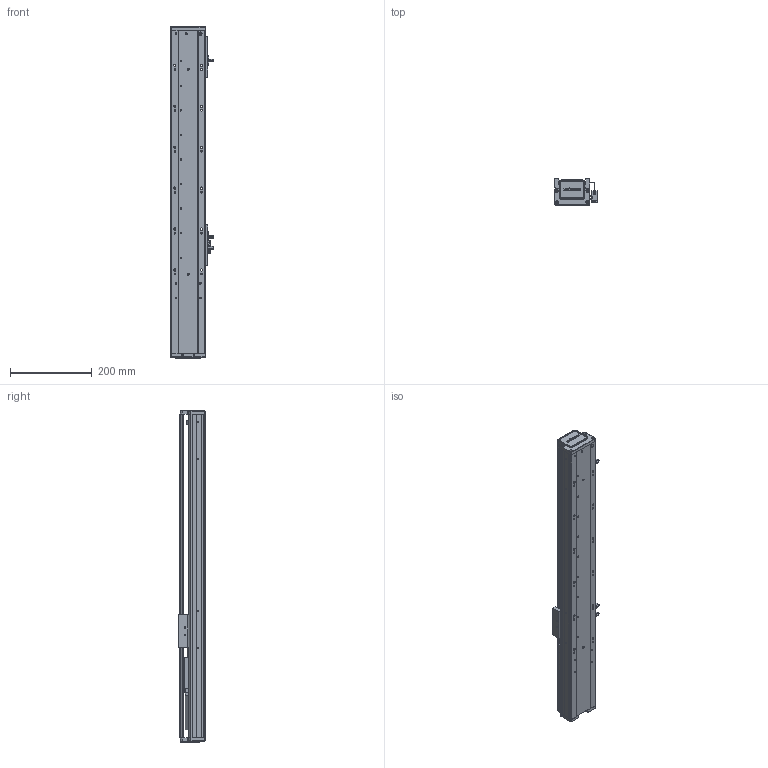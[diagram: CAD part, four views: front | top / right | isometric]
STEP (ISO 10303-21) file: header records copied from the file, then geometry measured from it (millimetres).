
FILE_DESCRIPTION (( 'STEP AP203' ), '1' );
FILE_NAME ('RY80-L1620-300-IK.SLDASM_450.step', '2021-02-22T05:28:54', ( '盈信电脑' ), ( '东莞市道滘镇水果街19号' ), 'SwSTEP 2.0', 'SolidWorks 2012', '' );
FILE_SCHEMA (( 'CONFIG_CONTROL_DESIGN' ));
Length unit declared in the file: millimetre
Products named in the file (14): RY80囀离萇儂啣; RY80囀离ヶ啣; 侂狟100W; 覜茼ん672; RY80俋离覜茼え; 滅袉蝶18-10; 672嫖萇羲壽假蚾釱; RY80-300倰第奻裔啣-IK_450; RY80萇儂傷盓傅釱; RY80綴裔啣; RY80臏賑輸; RY80-300倰第菁釱-IK_450; 滅袉蝶18-24; RY80-L1620-300-IK.SLDASM_450
Assembly tree (16 placements, depth 2):
  RY80-L1620-300-IK.SLDASM_450
    RY80-300倰第菁釱-IK_450
    RY80臏賑輸
    RY80-300倰第奻裔啣-IK_450
    RY80萇儂傷盓傅釱
    RY80綴裔啣
    滅袉蝶18-10
    672嫖萇羲壽假蚾釱  x2
    覜茼ん672  x3
    RY80俋离覜茼え
    侂狟100W
    RY80囀离萇儂啣
    RY80囀离ヶ啣
    滅袉蝶18-24
Bounding box: 103.7 x 65 x 811 mm (x, y, z)
Volume: 1468083.4 mm3; surface area: 605984.9 mm2
Topology: 16 solids, 16 shells, 2047 faces, 5672 edges, 3699 vertices
Faces by surface type: plane 1266, cylinder 644, cone 93, bspline 44
Entity records: 64303 total; most frequent: CARTESIAN_POINT 15999, ORIENTED_EDGE 10064, DIRECTION 9109, EDGE_CURVE 5032, LINE 3407, VECTOR 3407, VERTEX_POINT 3315, AXIS2_PLACEMENT_3D 2851
